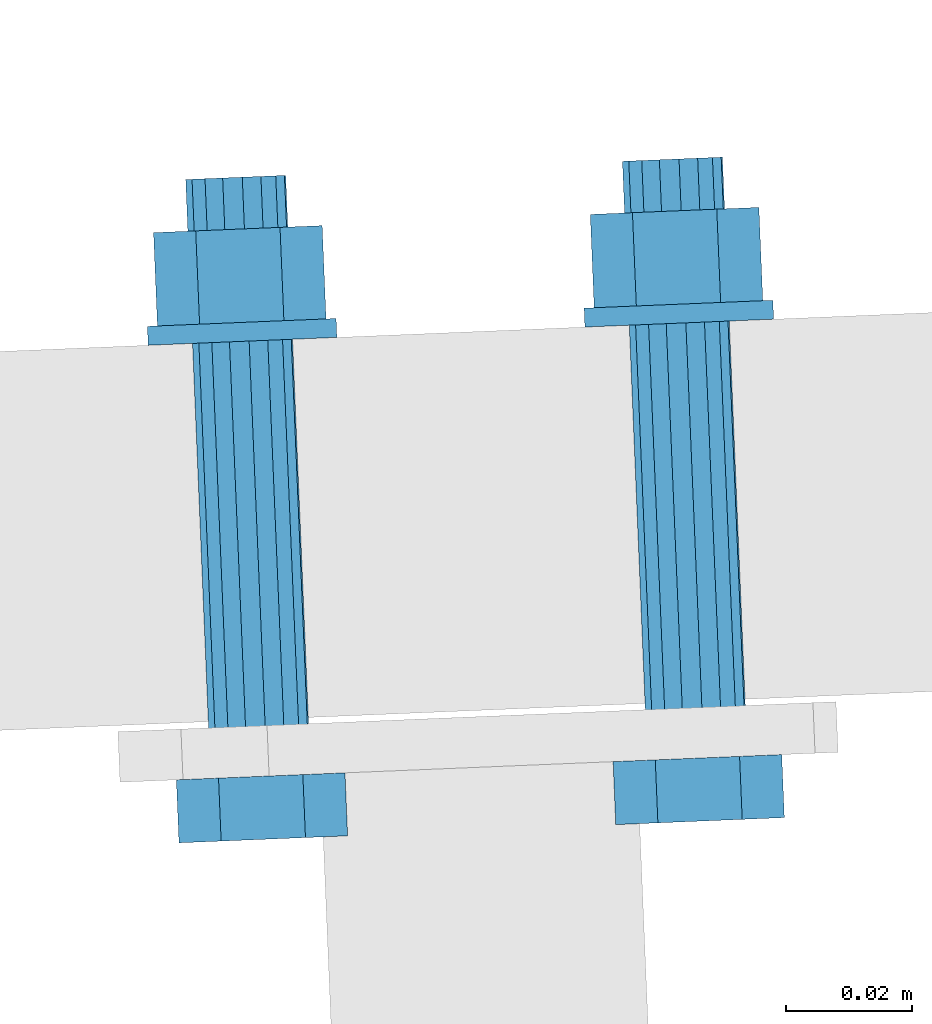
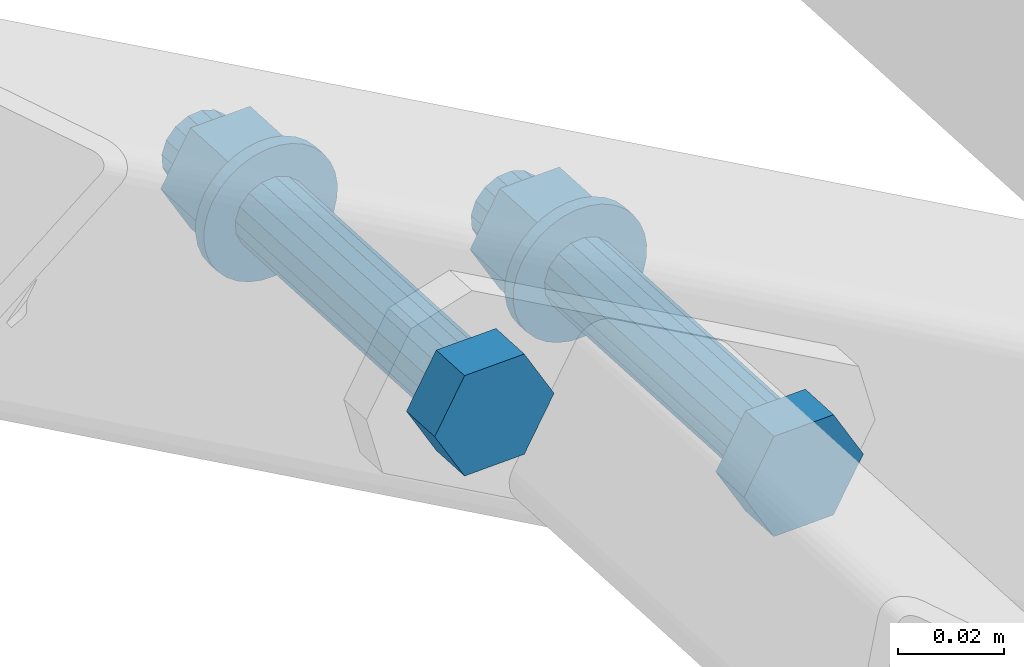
# One storey, part 82 of 288: 1 mechanical fastener.
"""IFC2X3 building model written with IfcOpenShell, lengths in millimetres."""

from ifc_helpers import new_model, entity, si_unit, converted_unit, origin_with_axes, place, context, project, spatial, faceted_brep, element, save


model = new_model("IFC2X3")

# Units and contexts
model_context = context("Model", 3, precision=1e-09, world=origin_with_axes())
ifc_project = project(units=[si_unit("LENGTHUNIT", "METRE", prefix="MILLI"), si_unit("AREAUNIT", "SQUARE_METRE"), si_unit("VOLUMEUNIT", "CUBIC_METRE"), converted_unit("PLANEANGLEUNIT", "DEGREE", entity("IfcPlaneAngleMeasure", 0.01745329), si_unit("PLANEANGLEUNIT", "RADIAN"), dimensions=[0, 0, 0, 0, 0, 0, 0])], contexts=[model_context])

# Site, building, storey
site_placement = place(None, origin_with_axes())
site = spatial("IfcSite", under=ifc_project, at=site_placement, Name="Remont ?wietlik?w nad MC w NCPP w Opolu", CompositionType="ELEMENT")
building_placement = place(site_placement, origin_with_axes())
building = spatial("IfcBuilding", under=site, at=building_placement, Name="Konstrukcja 1", CompositionType="ELEMENT")
storey_placement = place(building_placement, origin_with_axes())
storey = spatial("IfcBuildingStorey", under=building, at=storey_placement, Name="Default Storey", CompositionType="ELEMENT", Elevation=0.0)

# Mechanical fastener
mechanical_fastener_placement = place(None, origin_with_axes())
element("IfcMechanicalFastener", 1, at=mechanical_fastener_placement, inside=storey, ObjectType="-", NominalDiameter=16.0, NominalLength=95.0, context=model_context, shape_type="Brep", body=[
    faceted_brep([(50.220436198, 875.752939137, 1139.938537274), (49.803719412, 885.74425272, 1139.938536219), (56.485414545, 886.022931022, 1128.355448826), (56.90213133, 876.031617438, 1128.355449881), (69.848796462, 886.580289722, 1128.355453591), (70.265513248, 876.588976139, 1128.355454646), (76.530483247, 886.858970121, 1139.938545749), (76.947200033, 876.867656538, 1139.938546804), (69.848788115, 886.580291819, 1151.521633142), (70.2655049, 876.588978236, 1151.521634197), (56.485406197, 886.022933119, 1151.521628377), (56.902122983, 876.031619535, 1151.521629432)], [[[0, 1, 2, 3]], [[3, 2, 4, 5]], [[5, 4, 6, 7]], [[7, 6, 8, 9]], [[9, 8, 10, 11]], [[11, 10, 1, 0]], [[3, 5, 7, 9, 11, 0]], [[2, 1, 10, 8, 6, 4]]]),
    faceted_brep([(119.442301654, 878.640034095, 1099.938561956), (119.025584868, 888.631347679, 1099.938560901), (125.707280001, 888.91002598, 1088.355473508), (126.123996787, 878.918712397, 1088.355474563), (139.070661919, 889.467384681, 1088.355478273), (139.487378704, 879.476071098, 1088.355479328), (145.752348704, 889.74606508, 1099.938570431), (146.169065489, 879.754751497, 1099.938571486), (139.070653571, 889.467386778, 1111.521657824), (139.487370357, 879.476073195, 1111.521658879), (125.707271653, 888.910028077, 1111.521653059), (126.123988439, 878.918714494, 1111.521654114)], [[[0, 1, 2, 3]], [[3, 2, 4, 5]], [[5, 4, 6, 7]], [[7, 6, 8, 9]], [[9, 8, 10, 11]], [[11, 10, 1, 0]], [[3, 5, 7, 9, 11, 0]], [[2, 1, 10, 8, 6, 4]]]),
    faceted_brep([(67.213934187, 955.530573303, 1135.938536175), (70.089289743, 886.590276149, 1135.938543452), (68.032966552, 886.504510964, 1133.591715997), (65.157610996, 955.444808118, 1133.59170872), (65.235859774, 886.387849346, 1132.211135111), (62.360504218, 955.3281465, 1132.211127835), (62.123803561, 886.258051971, 1132.006981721), (59.248448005, 955.198349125, 1132.006974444), (59.17058026, 886.134879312, 1133.010336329), (56.295224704, 955.075176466, 1133.010329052), (56.825791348, 886.03708329, 1135.068447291), (53.950435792, 954.977380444, 1135.068440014), (55.44640968, 885.979552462, 1137.86798587), (52.571054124, 954.919849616, 1137.867978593), (55.242433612, 885.971045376, 1140.982747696), (52.367078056, 954.911342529, 1140.982740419), (56.244916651, 886.012857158, 1143.938538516), (53.369561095, 954.953154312, 1143.938531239), (58.301239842, 886.098622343, 1146.285365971), (55.425884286, 955.038919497, 1146.285358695), (61.09834662, 886.215283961, 1147.665946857), (58.222991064, 955.155581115, 1147.66593958), (64.210402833, 886.345081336, 1147.870100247), (61.335047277, 955.28537849, 1147.87009297), (67.163626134, 886.468253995, 1146.866745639), (64.288270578, 955.408551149, 1146.866738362), (69.508415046, 886.566050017, 1144.808634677), (66.63305949, 955.506347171, 1144.8086274), (70.887796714, 886.623580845, 1142.009096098), (68.012441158, 955.563877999, 1142.009088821), (71.091772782, 886.632087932, 1138.894334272), (68.216417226, 955.572385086, 1138.894326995)], [[[0, 1, 2, 3]], [[3, 2, 4, 5]], [[5, 4, 6, 7]], [[7, 6, 8, 9]], [[9, 8, 10, 11]], [[11, 10, 12, 13]], [[13, 12, 14, 15]], [[15, 14, 16, 17]], [[17, 16, 18, 19]], [[19, 18, 20, 21]], [[21, 20, 22, 23]], [[23, 22, 24, 25]], [[25, 24, 26, 27]], [[27, 26, 28, 29]], [[29, 28, 30, 31]], [[31, 30, 1, 0]], [[2, 1, 30, 28, 26, 24, 22, 20, 18, 16, 14, 12, 10, 8, 6, 4]], [[31, 0, 3, 5, 7, 9, 11, 13, 15, 17, 19, 21, 23, 25, 27, 29]]]),
    faceted_brep([(136.435799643, 958.417668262, 1095.938560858), (139.311155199, 889.477371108, 1095.938568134), (137.254832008, 889.391605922, 1093.591740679), (134.379476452, 958.331903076, 1093.591733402), (134.457725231, 889.274944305, 1092.211159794), (131.582369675, 958.215241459, 1092.211152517), (131.345669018, 889.14514693, 1092.007006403), (128.470313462, 958.085444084, 1092.006999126), (128.392445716, 889.021974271, 1093.010361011), (125.51709016, 957.962271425, 1093.010353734), (126.047656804, 888.924178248, 1095.068471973), (123.172301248, 957.864475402, 1095.068464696), (124.668275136, 888.86664742, 1097.868010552), (121.79291958, 957.806944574, 1097.868003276), (124.464299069, 888.858140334, 1100.982772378), (121.588943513, 957.798437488, 1100.982765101), (125.466782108, 888.899952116, 1103.938563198), (122.591426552, 957.84024927, 1103.938555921), (127.523105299, 888.985717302, 1106.285390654), (124.647749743, 957.926014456, 1106.285383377), (130.320212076, 889.102378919, 1107.665971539), (127.44485652, 958.042676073, 1107.665964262), (133.432268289, 889.232176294, 1107.870124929), (130.556912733, 958.172473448, 1107.870117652), (136.38549159, 889.355348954, 1106.866770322), (133.510136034, 958.295646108, 1106.866763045), (138.730280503, 889.453144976, 1104.808659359), (135.854924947, 958.39344213, 1104.808652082), (140.10966217, 889.510675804, 1102.00912078), (137.234306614, 958.450972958, 1102.009113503), (140.313638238, 889.51918289, 1098.894358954), (137.438282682, 958.459480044, 1098.894351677)], [[[0, 1, 2, 3]], [[3, 2, 4, 5]], [[5, 4, 6, 7]], [[7, 6, 8, 9]], [[9, 8, 10, 11]], [[11, 10, 12, 13]], [[13, 12, 14, 15]], [[15, 14, 16, 17]], [[17, 16, 18, 19]], [[19, 18, 20, 21]], [[21, 20, 22, 23]], [[23, 22, 24, 25]], [[25, 24, 26, 27]], [[27, 26, 28, 29]], [[29, 28, 30, 31]], [[31, 30, 1, 0]], [[2, 1, 30, 28, 26, 24, 22, 20, 18, 16, 14, 12, 10, 8, 6, 4]], [[31, 0, 3, 5, 7, 9, 11, 13, 15, 17, 19, 21, 23, 25, 27, 29]]]),
    faceted_brep([(73.145832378, 958.780588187, 1132.438538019), (73.270847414, 955.783194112, 1132.438538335), (71.559552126, 955.711819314, 1130.048350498), (71.43453709, 958.709213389, 1130.048350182), (69.415241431, 955.622384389, 1128.038236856), (69.290226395, 958.619778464, 1128.03823654), (66.920319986, 955.518326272, 1126.485444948), (66.79530495, 958.515720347, 1126.485444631), (64.170666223, 955.403643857, 1125.449647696), (64.045651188, 958.401037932, 1125.44964738), (61.271947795, 955.282744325, 1124.970650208), (61.146932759, 958.2801384, 1124.970649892), (58.335560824, 955.160273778, 1125.066860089), (58.210545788, 958.157667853, 1125.066859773), (55.474349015, 955.040938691, 1125.734580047), (55.34933398, 958.038332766, 1125.734579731), (52.798267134, 954.929325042, 1126.948149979), (52.673252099, 957.926719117, 1126.948149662), (50.410155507, 954.829722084, 1128.660933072), (50.285140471, 957.827116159, 1128.660932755), (48.401787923, 954.7459575, 1130.807108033), (48.276772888, 957.743351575, 1130.807107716), (46.850344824, 954.681250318, 1133.304198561), (46.725329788, 957.678644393, 1133.304198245), (45.815447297, 954.638087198, 1136.056242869), (45.690432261, 957.635481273, 1136.056242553), (45.336865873, 954.618126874, 1138.957481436), (45.211850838, 957.615520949, 1138.95748112), (45.432992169, 954.622136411, 1141.896421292), (45.307977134, 957.619530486, 1141.896420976), (46.100132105, 954.649961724, 1144.760120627), (45.97511707, 957.647355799, 1144.76012031), (47.312647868, 954.700533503, 1147.438529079), (47.187632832, 957.697927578, 1147.438528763), (49.023943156, 954.771908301, 1149.828716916), (48.89892812, 957.769302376, 1149.8287166), (51.168253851, 954.861343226, 1151.838830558), (51.043238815, 957.858737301, 1151.838830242), (53.663175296, 954.965401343, 1153.391622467), (53.53816026, 957.962795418, 1153.39162215), (56.412829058, 955.080083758, 1154.427419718), (56.287814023, 958.077477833, 1154.427419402), (59.311547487, 955.20098329, 1154.906417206), (59.186532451, 958.198377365, 1154.90641689), (62.247934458, 955.323453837, 1154.810207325), (62.122919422, 958.320847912, 1154.810207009), (65.109146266, 955.442788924, 1154.142487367), (64.984131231, 958.440182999, 1154.142487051), (67.785228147, 955.554402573, 1152.928917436), (67.660213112, 958.551796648, 1152.928917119), (70.173339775, 955.654005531, 1151.216134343), (70.048324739, 958.651399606, 1151.216134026), (72.181707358, 955.737770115, 1149.069959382), (72.056692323, 958.73516419, 1149.069959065), (73.733150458, 955.802477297, 1146.572868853), (73.608135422, 958.799871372, 1146.572868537), (74.768047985, 955.845640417, 1143.820824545), (74.643032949, 958.843034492, 1143.820824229), (75.246629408, 955.865600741, 1140.919585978), (75.121614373, 958.862994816, 1140.919585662), (75.150503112, 955.861591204, 1137.980646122), (75.025488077, 958.858985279, 1137.980645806), (74.483363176, 955.833765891, 1135.116946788), (74.358348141, 958.831159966, 1135.116946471)], [[[0, 1, 2, 3]], [[3, 2, 4, 5]], [[5, 4, 6, 7]], [[7, 6, 8, 9]], [[9, 8, 10, 11]], [[11, 10, 12, 13]], [[13, 12, 14, 15]], [[15, 14, 16, 17]], [[17, 16, 18, 19]], [[19, 18, 20, 21]], [[21, 20, 22, 23]], [[23, 22, 24, 25]], [[25, 24, 26, 27]], [[27, 26, 28, 29]], [[29, 28, 30, 31]], [[31, 30, 32, 33]], [[33, 32, 34, 35]], [[35, 34, 36, 37]], [[37, 36, 38, 39]], [[39, 38, 40, 41]], [[41, 40, 42, 43]], [[43, 42, 44, 45]], [[45, 44, 46, 47]], [[47, 46, 48, 49]], [[49, 48, 50, 51]], [[51, 50, 52, 53]], [[53, 52, 54, 55]], [[55, 54, 56, 57]], [[57, 56, 58, 59]], [[59, 58, 60, 61]], [[61, 60, 62, 63]], [[63, 62, 1, 0]], [[2, 1, 62, 60, 58, 56, 54, 52, 50, 48, 46, 44, 42, 40, 38, 36, 34, 32, 30, 28, 26, 24, 22, 20, 18, 16, 14, 12, 10, 8, 6, 4]], [[63, 0, 3, 5, 7, 9, 11, 13, 15, 17, 19, 21, 23, 25, 27, 29, 31, 33, 35, 37, 39, 41, 43, 45, 47, 49, 51, 53, 55, 57, 59, 61]]]),
    faceted_brep([(142.367697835, 961.667683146, 1092.438562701), (142.49271287, 958.670289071, 1092.438563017), (140.781417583, 958.598914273, 1090.048375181), (140.656402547, 961.596308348, 1090.048374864), (138.637106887, 958.509479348, 1088.038261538), (138.512091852, 961.506873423, 1088.038261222), (136.142185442, 958.40542123, 1086.48546963), (136.017170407, 961.402815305, 1086.485469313), (133.39253168, 958.290738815, 1085.449672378), (133.267516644, 961.28813289, 1085.449672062), (130.493813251, 958.169839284, 1084.97067489), (130.368798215, 961.167233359, 1084.970674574), (127.55742628, 958.047368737, 1085.066884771), (127.432411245, 961.044762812, 1085.066884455), (124.696214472, 957.928033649, 1085.734604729), (124.571199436, 960.925427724, 1085.734604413), (122.020132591, 957.816420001, 1086.948174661), (121.895117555, 960.813814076, 1086.948174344), (119.632020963, 957.716817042, 1088.660957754), (119.507005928, 960.714211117, 1088.660957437), (117.62365338, 957.633052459, 1090.807132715), (117.498638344, 960.630446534, 1090.807132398), (116.07221028, 957.568345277, 1093.304223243), (115.947195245, 960.565739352, 1093.304222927), (115.037312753, 957.525182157, 1096.056267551), (114.912297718, 960.522576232, 1096.056267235), (114.55873133, 957.505221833, 1098.957506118), (114.433716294, 960.502615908, 1098.957505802), (114.654857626, 957.50923137, 1101.896445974), (114.52984259, 960.506625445, 1101.896445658), (115.321997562, 957.537056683, 1104.760145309), (115.196982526, 960.534450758, 1104.760144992), (116.534513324, 957.587628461, 1107.438553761), (116.409498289, 960.585022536, 1107.438553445), (118.245808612, 957.65900326, 1109.828741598), (118.120793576, 960.656397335, 1109.828741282), (120.390119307, 957.748438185, 1111.838855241), (120.265104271, 960.74583226, 1111.838854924), (122.885040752, 957.852496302, 1113.391647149), (122.760025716, 960.849890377, 1113.391646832), (125.634694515, 957.967178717, 1114.427444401), (125.509679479, 960.964572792, 1114.427444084), (128.533412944, 958.088078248, 1114.906441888), (128.408397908, 961.085472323, 1114.906441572), (131.469799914, 958.210548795, 1114.810232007), (131.344784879, 961.20794287, 1114.810231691), (134.331011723, 958.329883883, 1114.142512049), (134.205996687, 961.327277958, 1114.142511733), (137.007093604, 958.441497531, 1112.928942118), (136.882078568, 961.438891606, 1112.928941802), (139.395205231, 958.54110049, 1111.216159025), (139.270190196, 961.538494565, 1111.216158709), (141.403572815, 958.624865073, 1109.069984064), (141.278557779, 961.622259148, 1109.069983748), (142.955015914, 958.689572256, 1106.572893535), (142.830000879, 961.686966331, 1106.572893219), (143.989913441, 958.732735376, 1103.820849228), (143.864898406, 961.730129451, 1103.820848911), (144.468494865, 958.752695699, 1100.91961066), (144.343479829, 961.750089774, 1100.919610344), (144.372368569, 958.748686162, 1097.980670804), (144.247353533, 961.746080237, 1097.980670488), (143.705228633, 958.720860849, 1095.11697147), (143.580213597, 961.718254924, 1095.116971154)], [[[0, 1, 2, 3]], [[3, 2, 4, 5]], [[5, 4, 6, 7]], [[7, 6, 8, 9]], [[9, 8, 10, 11]], [[11, 10, 12, 13]], [[13, 12, 14, 15]], [[15, 14, 16, 17]], [[17, 16, 18, 19]], [[19, 18, 20, 21]], [[21, 20, 22, 23]], [[23, 22, 24, 25]], [[25, 24, 26, 27]], [[27, 26, 28, 29]], [[29, 28, 30, 31]], [[31, 30, 32, 33]], [[33, 32, 34, 35]], [[35, 34, 36, 37]], [[37, 36, 38, 39]], [[39, 38, 40, 41]], [[41, 40, 42, 43]], [[43, 42, 44, 45]], [[45, 44, 46, 47]], [[47, 46, 48, 49]], [[49, 48, 50, 51]], [[51, 50, 52, 53]], [[53, 52, 54, 55]], [[55, 54, 56, 57]], [[57, 56, 58, 59]], [[59, 58, 60, 61]], [[61, 60, 62, 63]], [[63, 62, 1, 0]], [[2, 1, 62, 60, 58, 56, 54, 52, 50, 48, 46, 44, 42, 40, 38, 36, 34, 32, 30, 28, 26, 24, 22, 20, 18, 16, 14, 12, 10, 8, 6, 4]], [[63, 0, 3, 5, 7, 9, 11, 13, 15, 17, 19, 21, 23, 25, 27, 29, 31, 33, 35, 37, 39, 41, 43, 45, 47, 49, 51, 53, 55, 57, 59, 61]]]),
    faceted_brep([(46.803350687, 957.681899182, 1139.938528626), (46.186609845, 972.469043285, 1139.938527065), (52.868304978, 972.747721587, 1128.355439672), (53.48504582, 957.960577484, 1128.355441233), (66.231686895, 973.305080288, 1128.355444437), (66.848427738, 958.517936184, 1128.355445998), (72.91337368, 973.583760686, 1139.938536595), (73.530114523, 958.796616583, 1139.938538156), (66.231678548, 973.305082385, 1151.521623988), (66.84841939, 958.517938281, 1151.521625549), (52.86829663, 972.747723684, 1151.521619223), (53.485037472, 957.960579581, 1151.521620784)], [[[0, 1, 2, 3]], [[3, 2, 4, 5]], [[5, 4, 6, 7]], [[7, 6, 8, 9]], [[9, 8, 10, 11]], [[11, 10, 1, 0]], [[3, 5, 7, 9, 11, 0]], [[2, 1, 10, 8, 6, 4]]]),
    faceted_brep([(116.025216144, 960.568994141, 1099.938553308), (115.408475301, 975.356138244, 1099.938551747), (122.090170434, 975.634816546, 1088.355464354), (122.706911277, 960.847672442, 1088.355465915), (135.453552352, 976.192175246, 1088.355469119), (136.070293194, 961.405031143, 1088.35547068), (142.135239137, 976.470855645, 1099.938561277), (142.751979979, 961.683711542, 1099.938562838), (135.453544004, 976.192177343, 1111.52164867), (136.070284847, 961.40503324, 1111.521650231), (122.090162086, 975.634818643, 1111.521643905), (122.706902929, 960.847674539, 1111.521645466)], [[[0, 1, 2, 3]], [[3, 2, 4, 5]], [[5, 4, 6, 7]], [[7, 6, 8, 9]], [[9, 8, 10, 11]], [[11, 10, 1, 0]], [[3, 5, 7, 9, 11, 0]], [[2, 1, 10, 8, 6, 4]]]),
    faceted_brep([(66.130478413, 981.507799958, 1135.938533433), (66.472176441, 973.315156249, 1135.938534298), (64.41585325, 973.229391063, 1133.591706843), (64.074155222, 981.422034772, 1133.591705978), (61.618746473, 973.112729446, 1132.211125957), (61.277048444, 981.305373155, 1132.211125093), (58.50669026, 972.982932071, 1132.006972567), (58.164992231, 981.17557578, 1132.006971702), (55.553466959, 972.859759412, 1133.010327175), (55.21176893, 981.052403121, 1133.01032631), (53.208678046, 972.761963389, 1135.068438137), (52.866980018, 980.954607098, 1135.068437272), (51.829296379, 972.704432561, 1137.867976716), (51.48759835, 980.897076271, 1137.867975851), (51.625320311, 972.695925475, 1140.982738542), (51.283622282, 980.888569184, 1140.982737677), (52.62780335, 972.737737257, 1143.938529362), (52.286105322, 980.930380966, 1143.938528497), (54.684126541, 972.823502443, 1146.285356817), (54.342428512, 981.016146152, 1146.285355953), (57.481233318, 972.94016406, 1147.665937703), (57.13953529, 981.132807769, 1147.665936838), (60.593289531, 973.069961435, 1147.870091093), (60.251591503, 981.262605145, 1147.870090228), (63.546512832, 973.193134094, 1146.866736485), (63.204814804, 981.385777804, 1146.86673562), (65.891301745, 973.290930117, 1144.808625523), (65.549603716, 981.483573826, 1144.808624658), (67.270683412, 973.348460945, 1142.009086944), (66.928985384, 981.541104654, 1142.009086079), (67.47465948, 973.356968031, 1138.894325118), (67.132961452, 981.54961174, 1138.894324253)], [[[0, 1, 2, 3]], [[3, 2, 4, 5]], [[5, 4, 6, 7]], [[7, 6, 8, 9]], [[9, 8, 10, 11]], [[11, 10, 12, 13]], [[13, 12, 14, 15]], [[15, 14, 16, 17]], [[17, 16, 18, 19]], [[19, 18, 20, 21]], [[21, 20, 22, 23]], [[23, 22, 24, 25]], [[25, 24, 26, 27]], [[27, 26, 28, 29]], [[29, 28, 30, 31]], [[31, 30, 1, 0]], [[2, 1, 30, 28, 26, 24, 22, 20, 18, 16, 14, 12, 10, 8, 6, 4]], [[31, 0, 3, 5, 7, 9, 11, 13, 15, 17, 19, 21, 23, 25, 27, 29]]]),
    faceted_brep([(135.352343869, 984.394894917, 1095.938558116), (135.694041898, 976.202251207, 1095.93855898), (133.637718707, 976.116486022, 1093.591731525), (133.296020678, 984.309129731, 1093.59173066), (130.840611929, 975.999824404, 1092.211150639), (130.498913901, 984.192468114, 1092.211149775), (127.728555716, 975.870027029, 1092.006997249), (127.386857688, 984.062670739, 1092.006996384), (124.775332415, 975.74685437, 1093.010351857), (124.433634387, 983.93949808, 1093.010350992), (122.430543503, 975.649058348, 1095.068462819), (122.088845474, 983.841702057, 1095.068461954), (121.051161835, 975.59152752, 1097.868001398), (120.709463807, 983.784171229, 1097.868000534), (120.847185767, 975.583020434, 1100.982763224), (120.505487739, 983.775664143, 1100.982762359), (121.849668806, 975.624832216, 1103.938554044), (121.507970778, 983.817475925, 1103.938553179), (123.905991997, 975.710597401, 1106.285381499), (123.564293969, 983.903241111, 1106.285380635), (126.703098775, 975.827259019, 1107.665962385), (126.361400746, 984.019902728, 1107.66596152), (129.815154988, 975.957056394, 1107.870115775), (129.473456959, 984.149700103, 1107.87011491), (132.768378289, 976.080229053, 1106.866761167), (132.42668026, 984.272872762, 1106.866760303), (135.113167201, 976.178025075, 1104.808650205), (134.771469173, 984.370668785, 1104.80864934), (136.492548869, 976.235555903, 1102.009111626), (136.15085084, 984.428199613, 1102.009110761), (136.696524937, 976.24406299, 1098.8943498), (136.354826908, 984.436706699, 1098.894348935)], [[[0, 1, 2, 3]], [[3, 2, 4, 5]], [[5, 4, 6, 7]], [[7, 6, 8, 9]], [[9, 8, 10, 11]], [[11, 10, 12, 13]], [[13, 12, 14, 15]], [[15, 14, 16, 17]], [[17, 16, 18, 19]], [[19, 18, 20, 21]], [[21, 20, 22, 23]], [[23, 22, 24, 25]], [[25, 24, 26, 27]], [[27, 26, 28, 29]], [[29, 28, 30, 31]], [[31, 30, 1, 0]], [[2, 1, 30, 28, 26, 24, 22, 20, 18, 16, 14, 12, 10, 8, 6, 4]], [[31, 0, 3, 5, 7, 9, 11, 13, 15, 17, 19, 21, 23, 25, 27, 29]]]),
])

save(model, "model.ifc")
